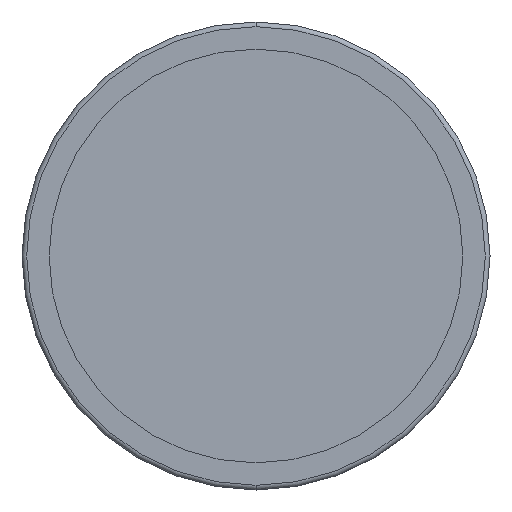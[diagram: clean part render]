
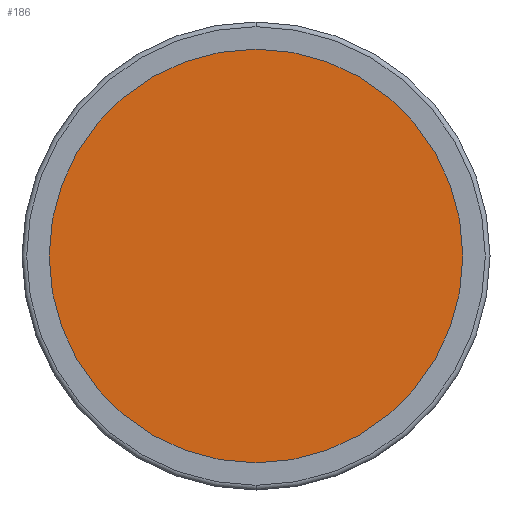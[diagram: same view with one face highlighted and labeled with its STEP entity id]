
A CAD part, front view. The second image highlights one B-rep face of the part: STEP entity #186.
In plain terms, the highlighted planar face has unit normal (0, -1, 0).
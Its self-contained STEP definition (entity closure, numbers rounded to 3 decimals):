
#24 = CARTESIAN_POINT ( 'NONE',  ( 0., -3., 0. ) ) ;
#186 = ADVANCED_FACE ( 'NONE', ( #368 ), #626, .T. ) ;
#260 = EDGE_CURVE ( 'NONE', #1989, #917, #801, .T. ) ;
#267 = AXIS2_PLACEMENT_3D ( 'NONE', #1036, #1783, #828 ) ;
#289 = AXIS2_PLACEMENT_3D ( 'NONE', #2292, #421, #1196 ) ;
#368 = FACE_OUTER_BOUND ( 'NONE', #499, .T. ) ;
#421 = DIRECTION ( 'NONE',  ( 0., -1., 0. ) ) ;
#480 = CARTESIAN_POINT ( 'NONE',  ( 0., -3., 43.75 ) ) ;
#499 = EDGE_LOOP ( 'NONE', ( #1236, #2415 ) ) ;
#550 = CIRCLE ( 'NONE', #267, 43.75 ) ;
#564 = EDGE_CURVE ( 'NONE', #917, #1989, #550, .T. ) ;
#626 = PLANE ( 'NONE',  #289 ) ;
#801 = CIRCLE ( 'NONE', #1425, 43.75 ) ;
#828 = DIRECTION ( 'NONE',  ( 0., 0., 1. ) ) ;
#917 = VERTEX_POINT ( 'NONE', #480 ) ;
#947 = DIRECTION ( 'NONE',  ( 0., 0., 1. ) ) ;
#1036 = CARTESIAN_POINT ( 'NONE',  ( 0., -3., 0. ) ) ;
#1181 = DIRECTION ( 'NONE',  ( 0., 1., 0. ) ) ;
#1196 = DIRECTION ( 'NONE',  ( 0., 0., -1. ) ) ;
#1236 = ORIENTED_EDGE ( 'NONE', *, *, #564, .F. ) ;
#1425 = AXIS2_PLACEMENT_3D ( 'NONE', #24, #1181, #947 ) ;
#1688 = CARTESIAN_POINT ( 'NONE',  ( 0., -3., -43.75 ) ) ;
#1783 = DIRECTION ( 'NONE',  ( 0., 1., 0. ) ) ;
#1989 = VERTEX_POINT ( 'NONE', #1688 ) ;
#2292 = CARTESIAN_POINT ( 'NONE',  ( -43.75, -3., 0. ) ) ;
#2415 = ORIENTED_EDGE ( 'NONE', *, *, #260, .F. ) ;
